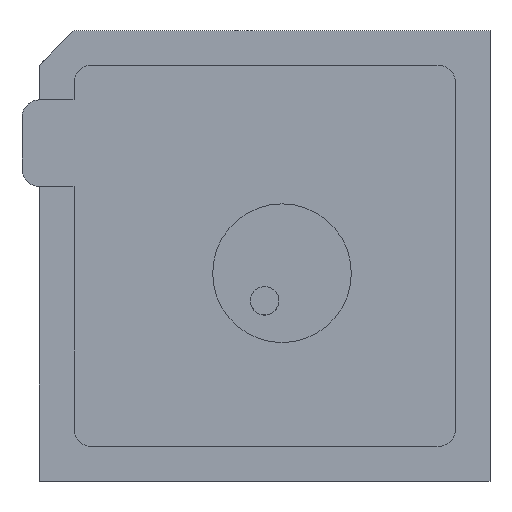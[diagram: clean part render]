
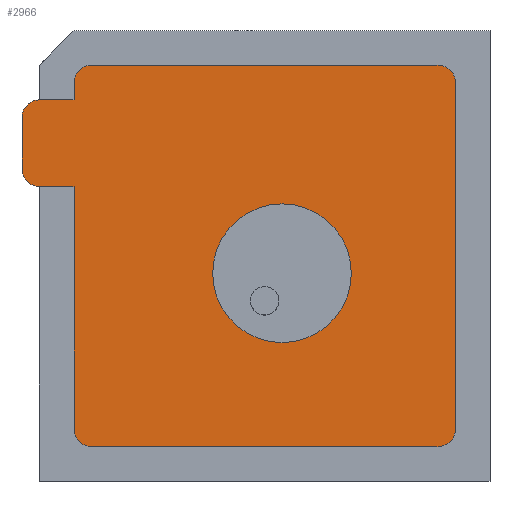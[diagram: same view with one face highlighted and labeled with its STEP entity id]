
A CAD part, top view. The second image highlights one B-rep face of the part: STEP entity #2966.
In plain terms, the highlighted planar face has unit normal (0, 0, 1).
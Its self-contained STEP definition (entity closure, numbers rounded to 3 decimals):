
#941=CARTESIAN_POINT('',(64.72,39.398,0.05));
#942=DIRECTION('',(0.,0.,-1.));
#943=DIRECTION('',(1.,0.,0.));
#944=AXIS2_PLACEMENT_3D('',#941,#942,#943);
#949=CARTESIAN_POINT('',(64.72,39.398,0.05));
#950=DIRECTION('',(0.,0.,-1.));
#951=DIRECTION('',(-1.,0.,0.));
#952=AXIS2_PLACEMENT_3D('',#949,#950,#951);
#957=CARTESIAN_POINT('',(59.22,44.898,0.05));
#958=DIRECTION('',(0.,0.,1.));
#959=DIRECTION('',(0.,1.,0.));
#960=AXIS2_PLACEMENT_3D('',#957,#958,#959);
#965=DIRECTION('',(-1.,0.,0.));
#966=VECTOR('',#965,10.);
#967=CARTESIAN_POINT('',(69.22,45.398,0.05));
#968=LINE('',#967,#966);
#972=CARTESIAN_POINT('',(69.22,44.898,0.05));
#973=DIRECTION('',(0.,0.,1.));
#974=DIRECTION('',(1.,0.,0.));
#975=AXIS2_PLACEMENT_3D('',#972,#973,#974);
#980=DIRECTION('',(0.,1.,0.));
#981=VECTOR('',#980,10.);
#982=CARTESIAN_POINT('',(69.72,34.898,0.05));
#983=LINE('',#982,#981);
#987=CARTESIAN_POINT('',(69.22,34.898,0.05));
#988=DIRECTION('',(0.,0.,1.));
#989=DIRECTION('',(0.,-1.,0.));
#990=AXIS2_PLACEMENT_3D('',#987,#988,#989);
#995=DIRECTION('',(1.,0.,0.));
#996=VECTOR('',#995,10.);
#997=CARTESIAN_POINT('',(59.22,34.398,0.05));
#998=LINE('',#997,#996);
#1002=CARTESIAN_POINT('',(59.22,34.898,0.05));
#1003=DIRECTION('',(0.,0.,1.));
#1004=DIRECTION('',(-1.,0.,0.));
#1005=AXIS2_PLACEMENT_3D('',#1002,#1003,#1004);
#1010=DIRECTION('',(0.,-1.,0.));
#1011=VECTOR('',#1010,7.);
#1012=CARTESIAN_POINT('',(58.72,41.898,0.05));
#1013=LINE('',#1012,#1011);
#1017=DIRECTION('',(1.,0.,0.));
#1018=VECTOR('',#1017,1.);
#1019=CARTESIAN_POINT('',(57.72,41.898,0.05));
#1020=LINE('',#1019,#1018);
#1024=CARTESIAN_POINT('',(57.72,42.398,0.05));
#1025=DIRECTION('',(0.,0.,1.));
#1026=DIRECTION('',(-1.,0.,0.));
#1027=AXIS2_PLACEMENT_3D('',#1024,#1025,#1026);
#1032=DIRECTION('',(0.,-1.,0.));
#1033=VECTOR('',#1032,1.5);
#1034=CARTESIAN_POINT('',(57.22,43.898,0.05));
#1035=LINE('',#1034,#1033);
#1039=CARTESIAN_POINT('',(57.72,43.898,0.05));
#1040=DIRECTION('',(0.,0.,1.));
#1041=DIRECTION('',(0.,1.,0.));
#1042=AXIS2_PLACEMENT_3D('',#1039,#1040,#1041);
#1047=DIRECTION('',(-1.,0.,0.));
#1048=VECTOR('',#1047,1.);
#1049=CARTESIAN_POINT('',(58.72,44.398,0.05));
#1050=LINE('',#1049,#1048);
#1054=DIRECTION('',(0.,-1.,0.));
#1055=VECTOR('',#1054,0.5);
#1056=CARTESIAN_POINT('',(58.72,44.898,0.05));
#1057=LINE('',#1056,#1055);
#1889=CARTESIAN_POINT('',(66.72,39.398,0.05));
#1890=CARTESIAN_POINT('',(62.72,39.398,0.05));
#1891=VERTEX_POINT('',#1889);
#1892=VERTEX_POINT('',#1890);
#1893=CARTESIAN_POINT('',(59.22,45.398,0.05));
#1894=CARTESIAN_POINT('',(58.72,44.898,0.05));
#1895=VERTEX_POINT('',#1893);
#1896=VERTEX_POINT('',#1894);
#1897=CARTESIAN_POINT('',(58.72,44.398,0.05));
#1898=VERTEX_POINT('',#1897);
#1899=CARTESIAN_POINT('',(57.72,44.398,0.05));
#1900=VERTEX_POINT('',#1899);
#1901=CARTESIAN_POINT('',(57.22,43.898,0.05));
#1902=VERTEX_POINT('',#1901);
#1903=CARTESIAN_POINT('',(57.22,42.398,0.05));
#1904=VERTEX_POINT('',#1903);
#1905=CARTESIAN_POINT('',(57.72,41.898,0.05));
#1906=VERTEX_POINT('',#1905);
#1907=CARTESIAN_POINT('',(58.72,41.898,0.05));
#1908=VERTEX_POINT('',#1907);
#1909=CARTESIAN_POINT('',(58.72,34.898,0.05));
#1910=VERTEX_POINT('',#1909);
#1911=CARTESIAN_POINT('',(59.22,34.398,0.05));
#1912=VERTEX_POINT('',#1911);
#1913=CARTESIAN_POINT('',(69.22,34.398,0.05));
#1914=VERTEX_POINT('',#1913);
#1915=CARTESIAN_POINT('',(69.72,34.898,0.05));
#1916=VERTEX_POINT('',#1915);
#1917=CARTESIAN_POINT('',(69.72,44.898,0.05));
#1918=VERTEX_POINT('',#1917);
#1919=CARTESIAN_POINT('',(69.22,45.398,0.05));
#1920=VERTEX_POINT('',#1919);
#2929=CARTESIAN_POINT('',(0.,0.,0.05));
#2930=DIRECTION('',(0.,0.,1.));
#2931=DIRECTION('',(1.,0.,0.));
#2932=AXIS2_PLACEMENT_3D('',#2929,#2930,#2931);
#2933=PLANE('',#2932);
#2935=ORIENTED_EDGE('',*,*,#2934,.F.);
#2937=ORIENTED_EDGE('',*,*,#2936,.F.);
#2939=ORIENTED_EDGE('',*,*,#2938,.F.);
#2941=ORIENTED_EDGE('',*,*,#2940,.F.);
#2943=ORIENTED_EDGE('',*,*,#2942,.F.);
#2945=ORIENTED_EDGE('',*,*,#2944,.F.);
#2947=ORIENTED_EDGE('',*,*,#2946,.F.);
#2949=ORIENTED_EDGE('',*,*,#2948,.F.);
#2951=ORIENTED_EDGE('',*,*,#2950,.F.);
#2953=ORIENTED_EDGE('',*,*,#2952,.F.);
#2955=ORIENTED_EDGE('',*,*,#2954,.F.);
#2956=ORIENTED_EDGE('',*,*,#2750,.F.);
#2957=ORIENTED_EDGE('',*,*,#2766,.F.);
#2959=ORIENTED_EDGE('',*,*,#2958,.F.);
#2960=EDGE_LOOP('',(#2935,#2937,#2939,#2941,#2943,#2945,#2947,#2949,#2951,#2953,
#2955,#2956,#2957,#2959));
#2961=FACE_OUTER_BOUND('',#2960,.F.);
#2962=ORIENTED_EDGE('',*,*,#2909,.F.);
#2963=ORIENTED_EDGE('',*,*,#2923,.F.);
#2964=EDGE_LOOP('',(#2962,#2963));
#2965=FACE_BOUND('',#2964,.F.);
#945=CIRCLE('',#944,2.);
#953=CIRCLE('',#952,2.);
#961=CIRCLE('',#960,0.5);
#976=CIRCLE('',#975,0.5);
#991=CIRCLE('',#990,0.5);
#1006=CIRCLE('',#1005,0.5);
#1028=CIRCLE('',#1027,0.5);
#1043=CIRCLE('',#1042,0.5);
#2750=EDGE_CURVE('',#1900,#1902,#1043,.T.);
#2766=EDGE_CURVE('',#1898,#1900,#1050,.T.);
#2909=EDGE_CURVE('',#1891,#1892,#945,.T.);
#2923=EDGE_CURVE('',#1892,#1891,#953,.T.);
#2934=EDGE_CURVE('',#1895,#1896,#961,.T.);
#2936=EDGE_CURVE('',#1920,#1895,#968,.T.);
#2938=EDGE_CURVE('',#1918,#1920,#976,.T.);
#2940=EDGE_CURVE('',#1916,#1918,#983,.T.);
#2942=EDGE_CURVE('',#1914,#1916,#991,.T.);
#2944=EDGE_CURVE('',#1912,#1914,#998,.T.);
#2946=EDGE_CURVE('',#1910,#1912,#1006,.T.);
#2948=EDGE_CURVE('',#1908,#1910,#1013,.T.);
#2950=EDGE_CURVE('',#1906,#1908,#1020,.T.);
#2952=EDGE_CURVE('',#1904,#1906,#1028,.T.);
#2954=EDGE_CURVE('',#1902,#1904,#1035,.T.);
#2958=EDGE_CURVE('',#1896,#1898,#1057,.T.);
#2966=ADVANCED_FACE('',(#2961,#2965),#2933,.T.);
